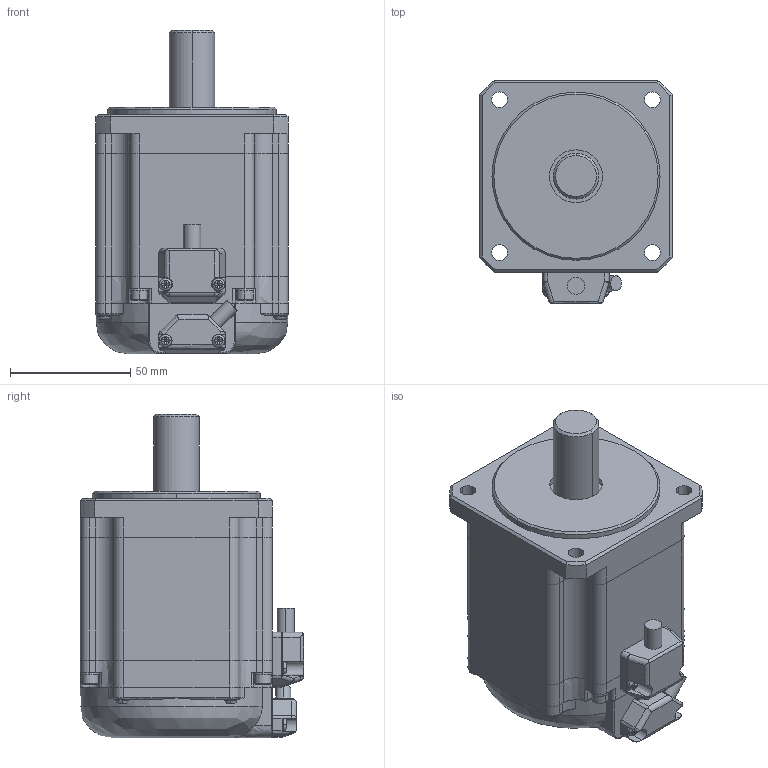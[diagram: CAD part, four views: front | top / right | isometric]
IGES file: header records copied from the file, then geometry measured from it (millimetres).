
Start section: Elysium IGES Interface
Global section: file name: 79H\\nas63\design\04MC研\saka\3DCAD\TBL-i2カタログまとめ\IGSデータ\TS4613_BK無.igs; native system: Creo Elements/Direct Modeling 17.0F  20-Aug-2012; preprocessor: Creo Element/Direct IGES_3D V2.2; author: Unknown; organization: Unknown; date: 20161222.163524; units: millimetre
Bounding box: 80 x 93 x 134.7 mm (x, y, z)
Volume: 579279.7 mm3; surface area: 46292.7 mm2
Topology: 1 solids, 1 shells, 639 faces, 1497 edges, 860 vertices
Faces by surface type: bspline 639
